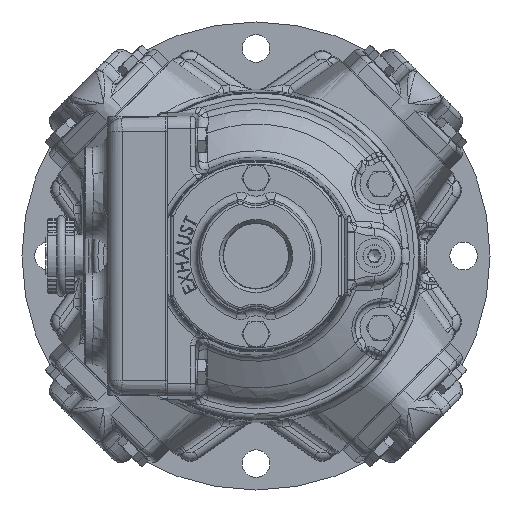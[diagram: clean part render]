
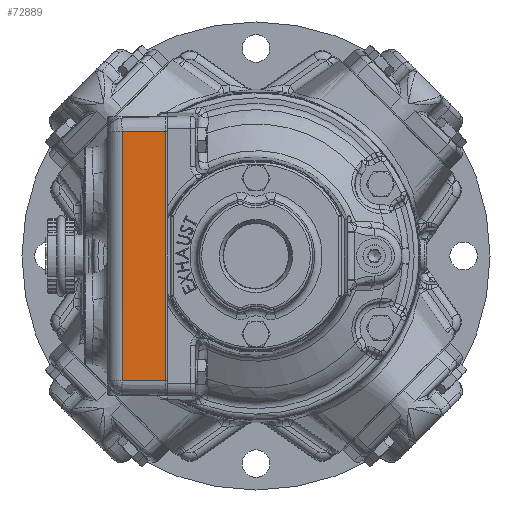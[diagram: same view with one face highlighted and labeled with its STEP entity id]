
A CAD part, left-side view. The second image highlights one B-rep face of the part: STEP entity #72889.
In plain terms, the highlighted planar face has unit normal (-0.999, 0.035, 0).
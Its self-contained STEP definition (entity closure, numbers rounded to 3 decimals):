
#10415 = VERTEX_POINT ( 'NONE', #89438 ) ;
#13250 = EDGE_LOOP ( 'NONE', ( #65738, #102874, #39529, #85445 ) ) ;
#14299 = LINE ( 'NONE', #71218, #69184 ) ;
#15525 = PLANE ( 'NONE',  #88598 ) ;
#15558 = LINE ( 'NONE', #105789, #50717 ) ;
#23436 = DIRECTION ( 'NONE',  ( 0., 0., 1. ) ) ;
#26022 = VERTEX_POINT ( 'NONE', #95413 ) ;
#31749 = EDGE_CURVE ( 'NONE', #26022, #75981, #14299, .T. ) ;
#33237 = DIRECTION ( 'NONE',  ( -0.999, 0.035, 0. ) ) ;
#39529 = ORIENTED_EDGE ( 'NONE', *, *, #57911, .F. ) ;
#43148 = LINE ( 'NONE', #99562, #62818 ) ;
#49345 = FACE_OUTER_BOUND ( 'NONE', #13250, .T. ) ;
#50717 = VECTOR ( 'NONE', #88067, 1000. ) ;
#53543 = DIRECTION ( 'NONE',  ( -0.035, -0.999, 0. ) ) ;
#55842 = EDGE_CURVE ( 'NONE', #75981, #100459, #65301, .T. ) ;
#57911 = EDGE_CURVE ( 'NONE', #10415, #100459, #15558, .T. ) ;
#57936 = CARTESIAN_POINT ( 'NONE',  ( -131.148, 36., -49.5 ) ) ;
#62818 = VECTOR ( 'NONE', #67842, 1000. ) ;
#65301 = LINE ( 'NONE', #87902, #103636 ) ;
#65738 = ORIENTED_EDGE ( 'NONE', *, *, #31749, .T. ) ;
#67842 = DIRECTION ( 'NONE',  ( 0., 0., -1. ) ) ;
#69184 = VECTOR ( 'NONE', #53543, 1000. ) ;
#71218 = CARTESIAN_POINT ( 'NONE',  ( -131.2, 34.5, -49.5 ) ) ;
#72889 = ADVANCED_FACE ( 'NONE', ( #49345 ), #15525, .T. ) ;
#74364 = EDGE_CURVE ( 'NONE', #10415, #26022, #43148, .T. ) ;
#75981 = VERTEX_POINT ( 'NONE', #57936 ) ;
#85445 = ORIENTED_EDGE ( 'NONE', *, *, #74364, .T. ) ;
#87902 = CARTESIAN_POINT ( 'NONE',  ( -131.148, 36., -49.5 ) ) ;
#88067 = DIRECTION ( 'NONE',  ( -0.035, -0.999, 0. ) ) ;
#88598 = AXIS2_PLACEMENT_3D ( 'NONE', #105757, #33237, #97700 ) ;
#89438 = CARTESIAN_POINT ( 'NONE',  ( -130.547, 53.209, 49.5 ) ) ;
#95413 = CARTESIAN_POINT ( 'NONE',  ( -130.547, 53.209, -49.5 ) ) ;
#97700 = DIRECTION ( 'NONE',  ( -0.035, -0.999, 0. ) ) ;
#99562 = CARTESIAN_POINT ( 'NONE',  ( -130.547, 53.209, -49.5 ) ) ;
#100459 = VERTEX_POINT ( 'NONE', #103202 ) ;
#102874 = ORIENTED_EDGE ( 'NONE', *, *, #55842, .T. ) ;
#103202 = CARTESIAN_POINT ( 'NONE',  ( -131.148, 36., 49.5 ) ) ;
#103636 = VECTOR ( 'NONE', #23436, 1000. ) ;
#105757 = CARTESIAN_POINT ( 'NONE',  ( -131.2, 34.5, -49.5 ) ) ;
#105789 = CARTESIAN_POINT ( 'NONE',  ( -131.2, 34.5, 49.5 ) ) ;
